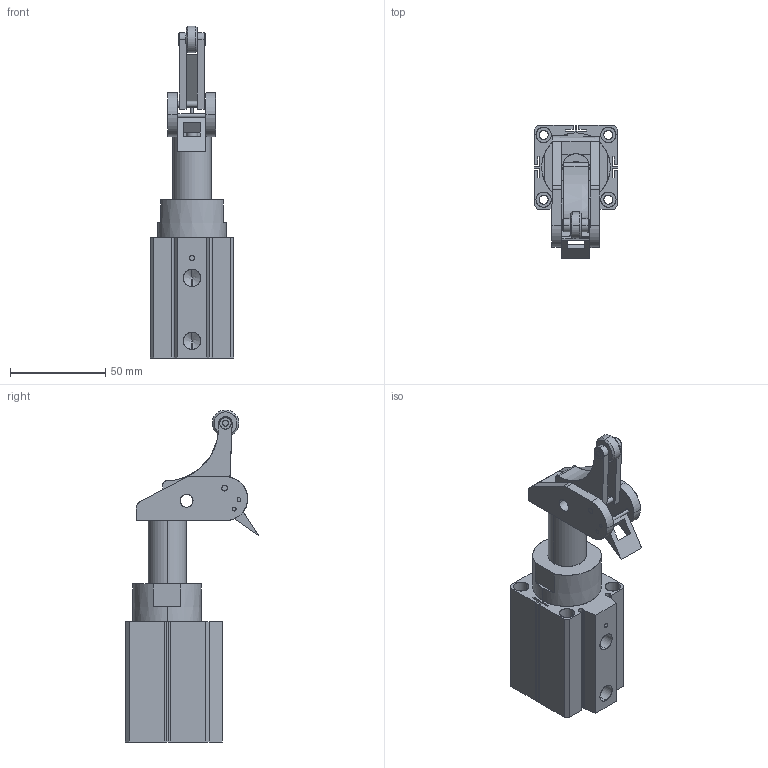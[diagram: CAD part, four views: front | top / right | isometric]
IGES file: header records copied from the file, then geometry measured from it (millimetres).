
Start section: SolidWorks IGES file using analytic representation for surfaces
Global section: file name: H:\elod\elod 32\course 15\elod32-15.IGS; native system: SolidWorks 2010; preprocessor: SolidWorks 2010; author: SGA; date: 110512.093153; units: millimetre
Bounding box: 44 x 70.06 x 174.21 mm (x, y, z)
Surface area: 44734.1 mm2 (no closed solid volume)
Topology: 0 solids, 0 shells, 234 faces, 3952 edges, 3946 vertices
Faces by surface type: bspline 119, revolution 115
